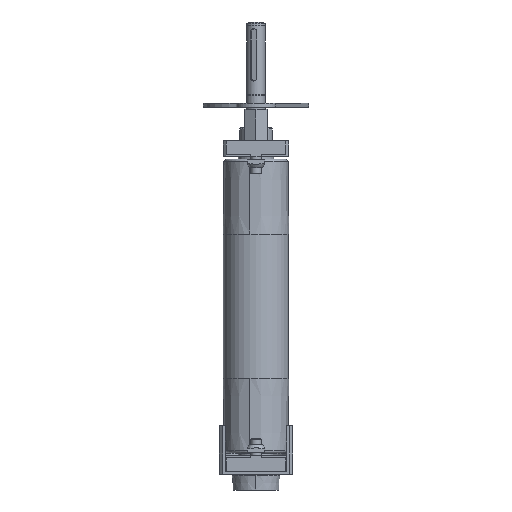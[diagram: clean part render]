
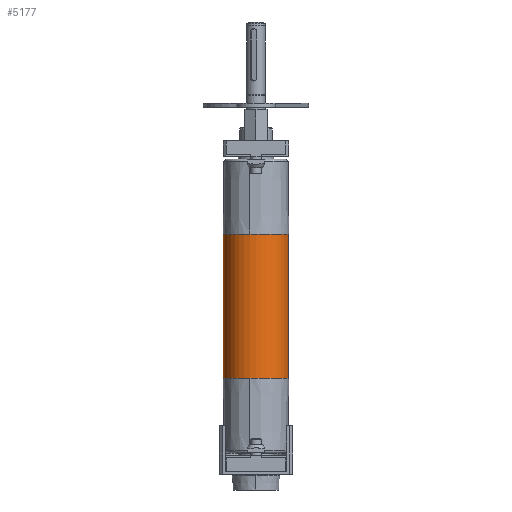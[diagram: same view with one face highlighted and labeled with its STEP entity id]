
A CAD part, left-side view. The second image highlights one B-rep face of the part: STEP entity #5177.
In plain terms, the highlighted cylindrical face has radius 25 mm (diameter 50 mm), a partial arc.
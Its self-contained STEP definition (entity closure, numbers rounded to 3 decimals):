
#188 = DIRECTION ( 'NONE',  ( 0., 0., 1. ) ) ;
#478 = EDGE_CURVE ( 'NONE', #5393, #11641, #5179, .T. ) ;
#1039 = AXIS2_PLACEMENT_3D ( 'NONE', #13578, #10581, #14940 ) ;
#1807 = VERTEX_POINT ( 'NONE', #10269 ) ;
#1984 = CIRCLE ( 'NONE', #7244, 25. ) ;
#2020 = VECTOR ( 'NONE', #8610, 1000. ) ;
#2585 = ORIENTED_EDGE ( 'NONE', *, *, #478, .F. ) ;
#2603 = DIRECTION ( 'NONE',  ( 0., -1., 0. ) ) ;
#4066 = DIRECTION ( 'NONE',  ( -1., 0., 0. ) ) ;
#4322 = ORIENTED_EDGE ( 'NONE', *, *, #9898, .T. ) ;
#4603 = CARTESIAN_POINT ( 'NONE',  ( 110., 0., 0. ) ) ;
#4710 = ORIENTED_EDGE ( 'NONE', *, *, #16515, .F. ) ;
#5177 = ADVANCED_FACE ( 'NONE', ( #9214 ), #6427, .T. ) ;
#5179 = CIRCLE ( 'NONE', #9561, 25. ) ;
#5393 = VERTEX_POINT ( 'NONE', #6786 ) ;
#5684 = CARTESIAN_POINT ( 'NONE',  ( -55., 0., 0. ) ) ;
#5883 = DIRECTION ( 'NONE',  ( 0., -1., 0. ) ) ;
#6350 = DIRECTION ( 'NONE',  ( -1., 0., 0. ) ) ;
#6427 = CYLINDRICAL_SURFACE ( 'NONE', #18305, 25. ) ;
#6786 = CARTESIAN_POINT ( 'NONE',  ( -55., -25., 0. ) ) ;
#7038 = DIRECTION ( 'NONE',  ( 0., -1., 0. ) ) ;
#7142 = CARTESIAN_POINT ( 'NONE',  ( -55., 0., 0. ) ) ;
#7244 = AXIS2_PLACEMENT_3D ( 'NONE', #9946, #4066, #7038 ) ;
#7311 = DIRECTION ( 'NONE',  ( -1., 0., 0. ) ) ;
#8085 = EDGE_LOOP ( 'NONE', ( #11790, #4322, #15845, #8136, #2585, #4710 ) ) ;
#8136 = ORIENTED_EDGE ( 'NONE', *, *, #8609, .T. ) ;
#8609 = EDGE_CURVE ( 'NONE', #11717, #11641, #12693, .T. ) ;
#8610 = DIRECTION ( 'NONE',  ( -1., 0., 0. ) ) ;
#9214 = FACE_OUTER_BOUND ( 'NONE', #8085, .T. ) ;
#9226 = CIRCLE ( 'NONE', #1039, 25. ) ;
#9561 = AXIS2_PLACEMENT_3D ( 'NONE', #7142, #17577, #2603 ) ;
#9619 = EDGE_CURVE ( 'NONE', #17010, #14371, #10573, .T. ) ;
#9898 = EDGE_CURVE ( 'NONE', #17010, #1807, #1984, .T. ) ;
#9946 = CARTESIAN_POINT ( 'NONE',  ( 55., 0., 0. ) ) ;
#10269 = CARTESIAN_POINT ( 'NONE',  ( 55., -25., 0. ) ) ;
#10573 = LINE ( 'NONE', #11719, #10796 ) ;
#10581 = DIRECTION ( 'NONE',  ( -1., 0., 0. ) ) ;
#10796 = VECTOR ( 'NONE', #19032, 1000. ) ;
#11483 = CARTESIAN_POINT ( 'NONE',  ( -55., 0., -25. ) ) ;
#11525 = CARTESIAN_POINT ( 'NONE',  ( 55., 0., 25. ) ) ;
#11641 = VERTEX_POINT ( 'NONE', #18847 ) ;
#11717 = VERTEX_POINT ( 'NONE', #11525 ) ;
#11719 = CARTESIAN_POINT ( 'NONE',  ( 110., 0., -25. ) ) ;
#11790 = ORIENTED_EDGE ( 'NONE', *, *, #9619, .F. ) ;
#12693 = LINE ( 'NONE', #18721, #2020 ) ;
#13578 = CARTESIAN_POINT ( 'NONE',  ( 55., 0., 0. ) ) ;
#14371 = VERTEX_POINT ( 'NONE', #11483 ) ;
#14827 = CARTESIAN_POINT ( 'NONE',  ( 55., 0., -25. ) ) ;
#14940 = DIRECTION ( 'NONE',  ( 0., -1., 0. ) ) ;
#15845 = ORIENTED_EDGE ( 'NONE', *, *, #19021, .T. ) ;
#16515 = EDGE_CURVE ( 'NONE', #14371, #5393, #17166, .T. ) ;
#17010 = VERTEX_POINT ( 'NONE', #14827 ) ;
#17166 = CIRCLE ( 'NONE', #18274, 25. ) ;
#17577 = DIRECTION ( 'NONE',  ( -1., 0., 0. ) ) ;
#18274 = AXIS2_PLACEMENT_3D ( 'NONE', #5684, #7311, #5883 ) ;
#18305 = AXIS2_PLACEMENT_3D ( 'NONE', #4603, #6350, #188 ) ;
#18721 = CARTESIAN_POINT ( 'NONE',  ( 110., 0., 25. ) ) ;
#18847 = CARTESIAN_POINT ( 'NONE',  ( -55., 0., 25. ) ) ;
#19021 = EDGE_CURVE ( 'NONE', #1807, #11717, #9226, .T. ) ;
#19032 = DIRECTION ( 'NONE',  ( -1., 0., 0. ) ) ;
